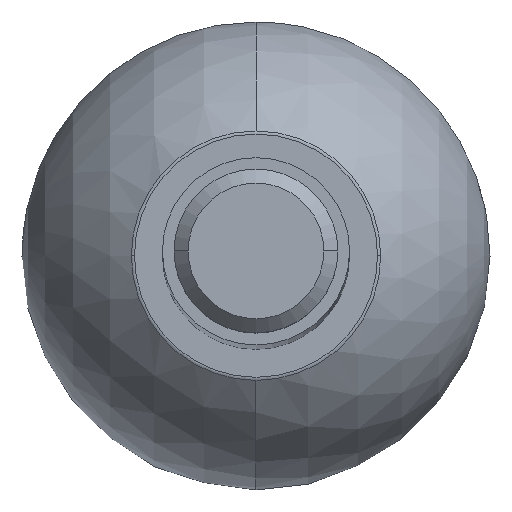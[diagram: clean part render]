
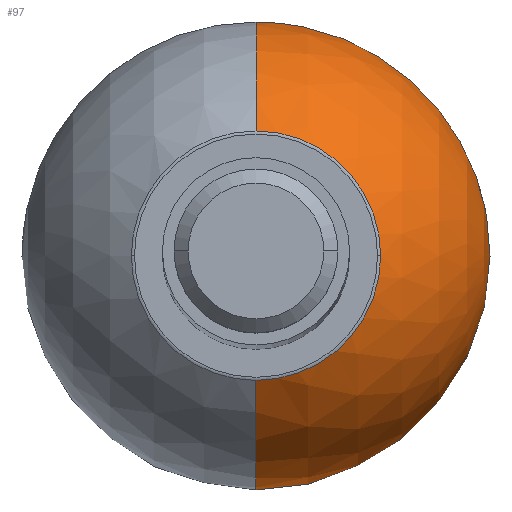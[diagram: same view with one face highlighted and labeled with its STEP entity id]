
A CAD part, top view. The second image highlights one B-rep face of the part: STEP entity #97.
In plain terms, the highlighted spherical face has radius 20 mm.
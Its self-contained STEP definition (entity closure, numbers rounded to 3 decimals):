
#16 = DIRECTION ( 'NONE',  ( 0., 0., -1. ) ) ;
#42 = EDGE_CURVE ( 'NONE', #288, #352, #503, .T. ) ;
#48 = CARTESIAN_POINT ( 'NONE',  ( 0., 0., -230. ) ) ;
#60 = VERTEX_POINT ( 'NONE', #490 ) ;
#68 = AXIS2_PLACEMENT_3D ( 'NONE', #111, #190, #16 ) ;
#69 = AXIS2_PLACEMENT_3D ( 'NONE', #48, #311, #227 ) ;
#97 = ADVANCED_FACE ( 'NONE', ( #351 ), #402, .T. ) ;
#108 = DIRECTION ( 'NONE',  ( 0., -1., 0. ) ) ;
#111 = CARTESIAN_POINT ( 'NONE',  ( 0., 0., -230. ) ) ;
#120 = CARTESIAN_POINT ( 'NONE',  ( 0., 10.659, -213.077 ) ) ;
#150 = AXIS2_PLACEMENT_3D ( 'NONE', #233, #231, #108 ) ;
#159 = ORIENTED_EDGE ( 'NONE', *, *, #42, .F. ) ;
#169 = CIRCLE ( 'NONE', #261, 10.659 ) ;
#179 = ORIENTED_EDGE ( 'NONE', *, *, #435, .F. ) ;
#190 = DIRECTION ( 'NONE',  ( 1., 0., 0. ) ) ;
#193 = DIRECTION ( 'NONE',  ( 1., 0., 0. ) ) ;
#223 = EDGE_LOOP ( 'NONE', ( #264, #559, #159, #179 ) ) ;
#227 = DIRECTION ( 'NONE',  ( 0., 1., 0. ) ) ;
#231 = DIRECTION ( 'NONE',  ( -1., 0., 0. ) ) ;
#233 = CARTESIAN_POINT ( 'NONE',  ( 0., 0., -230. ) ) ;
#243 = CARTESIAN_POINT ( 'NONE',  ( 0., -10.659, -213.077 ) ) ;
#249 = CARTESIAN_POINT ( 'NONE',  ( 10.659, 0., -213.077 ) ) ;
#261 = AXIS2_PLACEMENT_3D ( 'NONE', #498, #275, #193 ) ;
#264 = ORIENTED_EDGE ( 'NONE', *, *, #420, .F. ) ;
#271 = CIRCLE ( 'NONE', #150, 20. ) ;
#275 = DIRECTION ( 'NONE',  ( 0., 0., 1. ) ) ;
#288 = VERTEX_POINT ( 'NONE', #249 ) ;
#308 = AXIS2_PLACEMENT_3D ( 'NONE', #343, #389, #523 ) ;
#311 = DIRECTION ( 'NONE',  ( -1., 0., 0. ) ) ;
#315 = CIRCLE ( 'NONE', #68, 20. ) ;
#343 = CARTESIAN_POINT ( 'NONE',  ( 0., 0., -213.077 ) ) ;
#351 = FACE_OUTER_BOUND ( 'NONE', #223, .T. ) ;
#352 = VERTEX_POINT ( 'NONE', #120 ) ;
#389 = DIRECTION ( 'NONE',  ( 0., 0., 1. ) ) ;
#402 = SPHERICAL_SURFACE ( 'NONE', #69, 20. ) ;
#419 = VERTEX_POINT ( 'NONE', #243 ) ;
#420 = EDGE_CURVE ( 'NONE', #60, #419, #271, .T. ) ;
#435 = EDGE_CURVE ( 'NONE', #419, #288, #169, .T. ) ;
#490 = CARTESIAN_POINT ( 'NONE',  ( 0., 0., -250. ) ) ;
#493 = EDGE_CURVE ( 'NONE', #60, #352, #315, .T. ) ;
#498 = CARTESIAN_POINT ( 'NONE',  ( 0., 0., -213.077 ) ) ;
#503 = CIRCLE ( 'NONE', #308, 10.659 ) ;
#523 = DIRECTION ( 'NONE',  ( 1., 0., 0. ) ) ;
#559 = ORIENTED_EDGE ( 'NONE', *, *, #493, .T. ) ;
